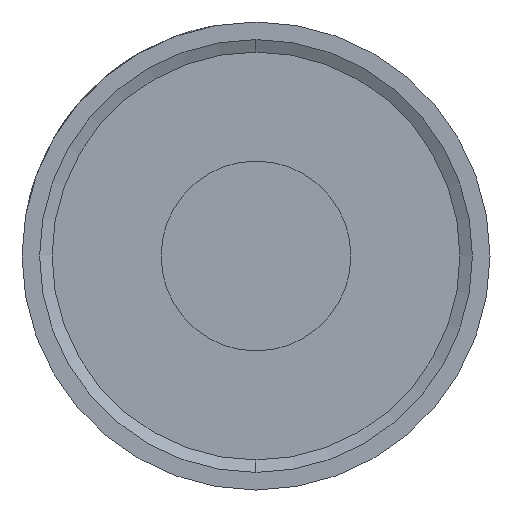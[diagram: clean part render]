
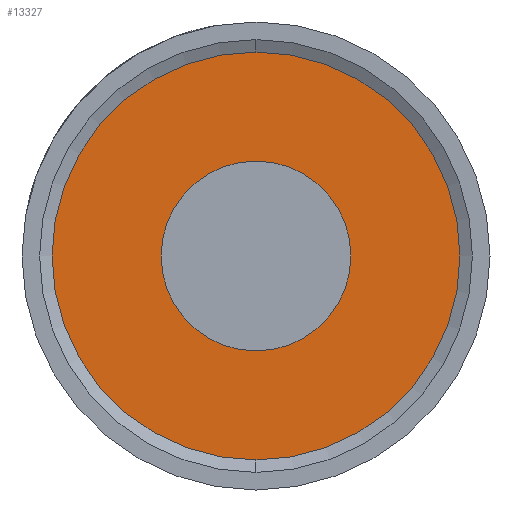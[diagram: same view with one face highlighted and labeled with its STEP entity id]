
A CAD part, left-side view. The second image highlights one B-rep face of the part: STEP entity #13327.
In plain terms, the highlighted planar face has unit normal (-1, 0, 0).
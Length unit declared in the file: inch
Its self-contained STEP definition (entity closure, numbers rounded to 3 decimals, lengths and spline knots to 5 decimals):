
#72 = AXIS2_PLACEMENT_3D ( 'NONE', #18651, #11907, #3737 ) ;
#117 = DIRECTION ( 'NONE',  ( 1., 0., 0. ) ) ;
#412 = EDGE_CURVE ( 'NONE', #5248, #10686, #16403, .T. ) ;
#802 = CARTESIAN_POINT ( 'NONE',  ( 0., 0., 0.057 ) ) ;
#1021 = DIRECTION ( 'NONE',  ( 0., 0., 1. ) ) ;
#1717 = DIRECTION ( 'NONE',  ( 0., 0., -1. ) ) ;
#2466 = AXIS2_PLACEMENT_3D ( 'NONE', #13994, #7625, #1021 ) ;
#3230 = FACE_OUTER_BOUND ( 'NONE', #3861, .T. ) ;
#3737 = DIRECTION ( 'NONE',  ( 0., 0., 1. ) ) ;
#3861 = EDGE_LOOP ( 'NONE', ( #12839, #4581 ) ) ;
#3969 = CARTESIAN_POINT ( 'NONE',  ( 0., 0., -0.057 ) ) ;
#4581 = ORIENTED_EDGE ( 'NONE', *, *, #6831, .T. ) ;
#4845 = DIRECTION ( 'NONE',  ( 0., 0., 1. ) ) ;
#4878 = CIRCLE ( 'NONE', #72, 0.1225 ) ;
#5248 = VERTEX_POINT ( 'NONE', #17581 ) ;
#5653 = CARTESIAN_POINT ( 'NONE',  ( 0., 0., -0.1225 ) ) ;
#6831 = EDGE_CURVE ( 'NONE', #10686, #5248, #4878, .T. ) ;
#7408 = EDGE_CURVE ( 'NONE', #9186, #9403, #16860, .T. ) ;
#7625 = DIRECTION ( 'NONE',  ( -1., 0., 0. ) ) ;
#8431 = FACE_BOUND ( 'NONE', #19777, .T. ) ;
#9186 = VERTEX_POINT ( 'NONE', #3969 ) ;
#9403 = VERTEX_POINT ( 'NONE', #802 ) ;
#9731 = CARTESIAN_POINT ( 'NONE',  ( 0., 0., 0. ) ) ;
#9834 = DIRECTION ( 'NONE',  ( -1., 0., 0. ) ) ;
#10045 = CARTESIAN_POINT ( 'NONE',  ( 0., 0., 0. ) ) ;
#10231 = CIRCLE ( 'NONE', #19448, 0.057 ) ;
#10569 = ORIENTED_EDGE ( 'NONE', *, *, #20283, .F. ) ;
#10686 = VERTEX_POINT ( 'NONE', #5653 ) ;
#11907 = DIRECTION ( 'NONE',  ( -1., 0., 0. ) ) ;
#12264 = AXIS2_PLACEMENT_3D ( 'NONE', #19543, #117, #1717 ) ;
#12839 = ORIENTED_EDGE ( 'NONE', *, *, #412, .T. ) ;
#13327 = ADVANCED_FACE ( 'NONE', ( #8431, #3230 ), #16311, .F. ) ;
#13994 = CARTESIAN_POINT ( 'NONE',  ( 0., 0., 0. ) ) ;
#14994 = AXIS2_PLACEMENT_3D ( 'NONE', #10045, #18250, #16623 ) ;
#16311 = PLANE ( 'NONE',  #12264 ) ;
#16403 = CIRCLE ( 'NONE', #14994, 0.1225 ) ;
#16623 = DIRECTION ( 'NONE',  ( 0., 0., 1. ) ) ;
#16860 = CIRCLE ( 'NONE', #2466, 0.057 ) ;
#17581 = CARTESIAN_POINT ( 'NONE',  ( 0., 0., 0.1225 ) ) ;
#18250 = DIRECTION ( 'NONE',  ( -1., 0., 0. ) ) ;
#18453 = ORIENTED_EDGE ( 'NONE', *, *, #7408, .F. ) ;
#18651 = CARTESIAN_POINT ( 'NONE',  ( 0., 0., 0. ) ) ;
#19448 = AXIS2_PLACEMENT_3D ( 'NONE', #9731, #9834, #4845 ) ;
#19543 = CARTESIAN_POINT ( 'NONE',  ( 0., 0., 0. ) ) ;
#19777 = EDGE_LOOP ( 'NONE', ( #10569, #18453 ) ) ;
#20283 = EDGE_CURVE ( 'NONE', #9403, #9186, #10231, .T. ) ;
